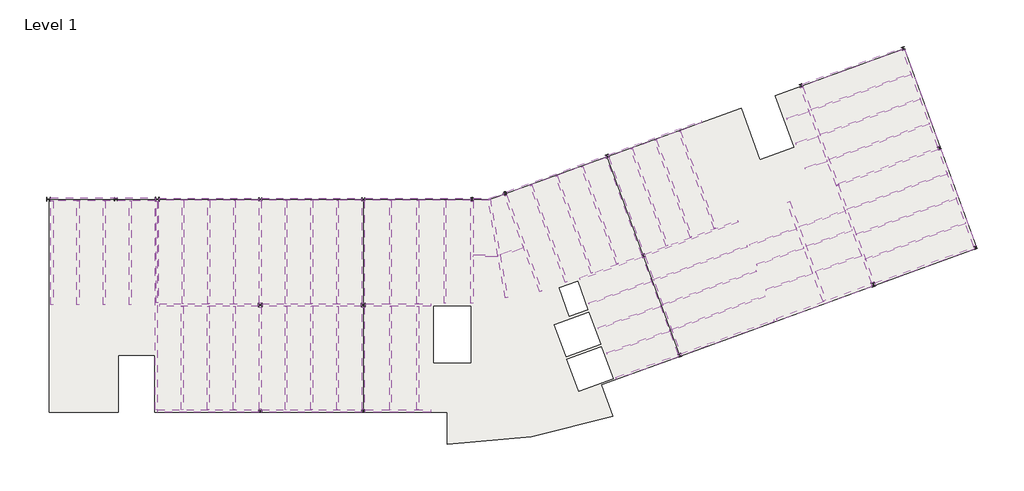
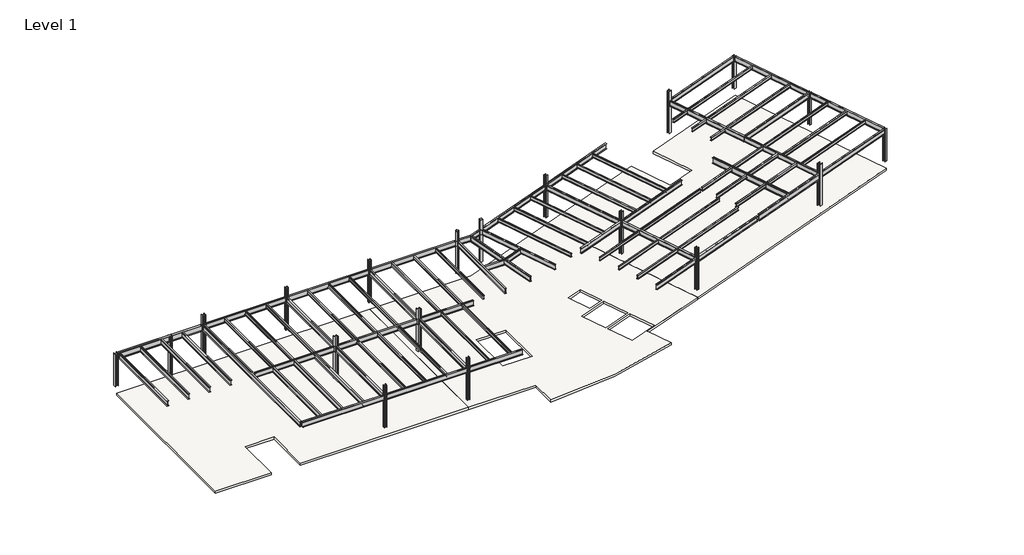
# One storey: 87 beams, 19 columns, 1 slab.
"""IFC4 building model written with IfcOpenShell, lengths in millimetres."""

from ifc_helpers import new_model, si_unit, point, frame, frame_2d, origin, place, context, project, spatial, polyline, circle_curve, trimmed, segment, composite_curve, outline, extrude, transform, mapped, element, save
from components import beam_e63ae445, ub_universal_beams_e915e172, ub_universal_beams_a95554c7, ub_universal_beams_b6dbdd7a, ub_universal_beams_9ada3ad7, ub_universal_beams_885cc86f, ub_universal_beams_c84566a2, ub_universal_beams_4841b023, ub_universal_beams_20791346, ub_universal_beams_18d3feb0, ub_universal_beams_59459dd6, ub_universal_beams_568b5c51, ub_universal_beams_e00400c9, ub_universal_beams_f823aa85, ub_universal_beams_cdbcbb51, ub_universal_beams_2db27d90, ub_universal_beams_feb0265b, ub_universal_beams_78ad538f, ub_universal_beams_801fcbf0, ub_universal_beams_7192e0ee, ub_universal_beams_e0a47d06, ub_universal_beams_f5dc209c, ub_universal_beams_f862a4b8, ub_universal_beams_0fc11a2d, ub_universal_beams_656765b2, ub_universal_beams_21f5ef47, ub_universal_beams_7b4bcd9a, ub_universal_beams_8d1efc97, ub_universal_beams_2b7a043a, ub_universal_beams_8d2b0bf5, ub_universal_beams_37de3949, ub_universal_beams_43212cfb, ub_universal_beams_777f85ab, ub_universal_beams_8ec85ef7, ub_universal_beams_16a75a32, ub_universal_beams_b9a7bbe5, ub_universal_beams_60794b88, ub_universal_beams_0c249d50, ub_universal_beams_892b370d, ub_universal_beams_25e113f4, ub_universal_beams_813faa96, ub_universal_beams_bf94d013, ub_universal_beams_c91190e6, column_fd5da61b, uc_universal_columns_column_9b15f2e4, uc_universal_columns_column_e63b660d, uc_universal_columns_column_cef70da3, uc_universal_columns_column_7956e9f7

model = new_model("IFC4")

# Units and contexts
model_context = context("Model", 3, world=origin())
ifc_project = project(units=[si_unit("LENGTHUNIT", "METRE", prefix="MILLI")], contexts=[model_context])

# Site, building, storey
site = spatial("IfcSite", under=ifc_project)
building = spatial("IfcBuilding", under=site)
storey = spatial("IfcBuildingStorey", under=building, Name="Level 1", Elevation=3695.0)

# Beams
placement = place(None, origin())
beam_shape = beam_e63ae445(model_context)
element("IfcBeam", 1, ObjectType="Cranked Beam B2 : Cranked Beam B1", at=placement, inside=storey, context=model_context, shape_type="MappedRepresentation", body=[
    mapped(beam_shape, transform((0.0, 0.0, 0.0), x_axis=(1.0, 0.0, 0.0), y_axis=(0.0, 1.0, 0.0), z_axis=(0.0, 0.0, 1.0))),
])
ub_universal_beams_shape = ub_universal_beams_e915e172(model_context)
element("IfcBeam", 2, ObjectType="UB-Universal Beams : UB 18\" x 6\" x 2 1/2\"", at=placement, inside=storey, context=model_context, shape_type="MappedRepresentation", body=[
    mapped(ub_universal_beams_shape, transform((11712.2000023, 15363.2000005, 7366.0), x_axis=(1.0, 0.0, 0.0), y_axis=(0.0, 1.0, 0.0), z_axis=(0.0, 0.0, 1.0))),
])
ub_universal_beams_2_shape = ub_universal_beams_a95554c7(model_context)
element("IfcBeam", 3, ObjectType="UB-Universal Beams : UB 18\" x 6\" x 2 1/2\"", at=placement, inside=storey, context=model_context, shape_type="MappedRepresentation", body=[
    mapped(ub_universal_beams_2_shape, transform((19012.2000023, 15363.2000005, 7366.0), x_axis=(1.0, 0.0, 0.0), y_axis=(0.0, 1.0, 0.0), z_axis=(0.0, 0.0, 1.0))),
])
element("IfcBeam", 4, ObjectType="UB-Universal Beams : UB 18\" x 6\" x 2 1/2\"", at=placement, inside=storey, context=model_context, shape_type="MappedRepresentation", body=[
    mapped(ub_universal_beams_2_shape, transform((19012.2000022, 363.2000005, 7366.0), x_axis=(1.0, 0.0, 0.0), y_axis=(0.0, 1.0, 0.0), z_axis=(0.0, 0.0, 1.0))),
])
ub_universal_beams_3_shape = ub_universal_beams_b6dbdd7a(model_context)
element("IfcBeam", 5, ObjectType="UB-Universal Beams : UB 18\" x 6\" x 2 1/2\"", at=placement, inside=storey, context=model_context, shape_type="MappedRepresentation", body=[
    mapped(ub_universal_beams_3_shape, transform((26512.2000022, 15363.2000005, 7366.0), x_axis=(1.0, 0.0, 0.0), y_axis=(0.0, 1.0, 0.0), z_axis=(0.0, 0.0, 1.0))),
])
ub_universal_beams_4_shape = ub_universal_beams_9ada3ad7(model_context)
element("IfcBeam", 6, ObjectType="UB-Universal Beams : UB 18\" x 6\" x 2 1/2\"", at=placement, inside=storey, context=model_context, shape_type="MappedRepresentation", body=[
    mapped(ub_universal_beams_4_shape, transform((11674.7000023, 7863.2000004, 7366.0), x_axis=(-1.0, 0.0, 0.0), y_axis=(0.0, -1.0, 0.0), z_axis=(0.0, 0.0, 1.0))),
])
ub_universal_beams_5_shape = ub_universal_beams_885cc86f(model_context)
element("IfcBeam", 7, ObjectType="UB-Universal Beams : UB 18\" x 6\" x 2 1/2\"", at=placement, inside=storey, context=model_context, shape_type="MappedRepresentation", body=[
    mapped(ub_universal_beams_5_shape, transform((11674.7000023, 363.2000005, 7366.0), x_axis=(-1.0, 0.0, 0.0), y_axis=(0.0, -1.0, 0.0), z_axis=(0.0, 0.0, 1.0))),
])
ub_universal_beams_6_shape = ub_universal_beams_c84566a2(model_context)
element("IfcBeam", 8, ObjectType="UB-Universal Beams : UB 18\" x 6\" x 2 1/2\"", at=placement, inside=storey, context=model_context, shape_type="MappedRepresentation", body=[
    mapped(ub_universal_beams_6_shape, transform((19012.2000023, 7863.2000004, 7366.0), x_axis=(1.0, 0.0, 0.0), y_axis=(0.0, 1.0, 0.0), z_axis=(0.0, 0.0, 1.0))),
])
ub_universal_beams_7_shape = ub_universal_beams_4841b023(model_context)
element("IfcBeam", 9, ObjectType="UB-Universal Beams : UB 18\" x 6\" x 2 1/2\"", at=placement, inside=storey, context=model_context, shape_type="MappedRepresentation", body=[
    mapped(ub_universal_beams_7_shape, transform((25112.2000025, 7863.2000004, 7366.0), x_axis=(1.0, 0.0, 0.0), y_axis=(0.0, 1.0, 0.0), z_axis=(0.0, 0.0, 1.0))),
])
ub_universal_beams_8_shape = ub_universal_beams_20791346(model_context)
element("IfcBeam", 10, ObjectType="UB-Universal Beams : UB 18\" x 6\" x 2 1/2\"", at=placement, inside=storey, context=model_context, shape_type="MappedRepresentation", body=[
    mapped(ub_universal_beams_8_shape, transform((25112.2000025, 363.2000005, 7366.0), x_axis=(1.0, 0.0, 0.0), y_axis=(0.0, 1.0, 0.0), z_axis=(0.0, 0.0, 1.0))),
])
ub_universal_beams_9_shape = ub_universal_beams_18d3feb0(model_context)
element("IfcBeam", 11, ObjectType="UB-Universal Beams : UB 18\" x 6\" x 2 1/2\"", at=placement, inside=storey, context=model_context, shape_type="MappedRepresentation", body=[
    mapped(ub_universal_beams_9_shape, transform((8062.2000022, 11613.2000005, 7366.0), x_axis=(0.0, 1.0, 0.0), y_axis=(-1.0, 0.0, 0.0), z_axis=(0.0, 0.0, 1.0))),
])
ub_universal_beams_10_shape = ub_universal_beams_59459dd6(model_context)
element("IfcBeam", 12, ObjectType="UB-Universal Beams : UB 18\" x 6\" x 2 1/2\"", at=placement, inside=storey, context=model_context, shape_type="MappedRepresentation", body=[
    mapped(ub_universal_beams_10_shape, transform((15362.2000023, 4113.2000005, 7366.0), x_axis=(0.0, 1.0, 0.0), y_axis=(-1.0, 0.0, 0.0), z_axis=(0.0, 0.0, 1.0))),
])
element("IfcBeam", 13, ObjectType="UB-Universal Beams : UB 18\" x 6\" x 2 1/2\"", at=placement, inside=storey, context=model_context, shape_type="MappedRepresentation", body=[
    mapped(ub_universal_beams_10_shape, transform((22662.2000022, 4113.2000005, 7366.0), x_axis=(0.0, 1.0, 0.0), y_axis=(-1.0, 0.0, 0.0), z_axis=(0.0, 0.0, 1.0))),
])
ub_universal_beams_11_shape = ub_universal_beams_568b5c51(model_context)
element("IfcBeam", 14, ObjectType="UB-Universal Beams : UB 18\" x 6\" x 2 1/2\"", at=placement, inside=storey, context=model_context, shape_type="MappedRepresentation", body=[
    mapped(ub_universal_beams_11_shape, transform((15362.2000023, 11613.2000005, 7366.0), x_axis=(0.0, 1.0, 0.0), y_axis=(-1.0, 0.0, 0.0), z_axis=(0.0, 0.0, 1.0))),
])
element("IfcBeam", 15, ObjectType="UB-Universal Beams : UB 18\" x 6\" x 2 1/2\"", at=placement, inside=storey, context=model_context, shape_type="MappedRepresentation", body=[
    mapped(ub_universal_beams_11_shape, transform((22662.2000022, 11613.2000005, 7366.0), x_axis=(0.0, 1.0, 0.0), y_axis=(-1.0, 0.0, 0.0), z_axis=(0.0, 0.0, 1.0))),
])
ub_universal_beams_12_shape = ub_universal_beams_e00400c9(model_context)
element("IfcBeam", 16, ObjectType="UB-Universal Beams : UB 18\" x 6\" x 2 1/2\"", at=placement, inside=storey, context=model_context, shape_type="MappedRepresentation", body=[
    mapped(ub_universal_beams_12_shape, transform((30362.2000022, 11613.2000005, 7366.0), x_axis=(0.0, 1.0, 0.0), y_axis=(-1.0, 0.0, 0.0), z_axis=(0.0, 0.0, 1.0))),
])
ub_universal_beams_13_shape = ub_universal_beams_f823aa85(model_context)
element("IfcBeam", 17, ObjectType="UB-Universal Beams : UB 12\" x 5\" x 1 1/2\"", at=placement, inside=storey, context=model_context, shape_type="MappedRepresentation", body=[
    mapped(ub_universal_beams_13_shape, transform((9887.2000022, 11613.2000005, 7442.8), x_axis=(0.0, 1.0, 0.0), y_axis=(-1.0, 0.0, 0.0), z_axis=(0.0, 0.0, 1.0))),
])
element("IfcBeam", 18, ObjectType="UB-Universal Beams : UB 12\" x 5\" x 1 1/2\"", at=placement, inside=storey, context=model_context, shape_type="MappedRepresentation", body=[
    mapped(ub_universal_beams_13_shape, transform((11712.2000022, 11613.2000005, 7442.8), x_axis=(0.0, 1.0, 0.0), y_axis=(-1.0, 0.0, 0.0), z_axis=(0.0, 0.0, 1.0))),
])
element("IfcBeam", 19, ObjectType="UB-Universal Beams : UB 12\" x 5\" x 1 1/2\"", at=placement, inside=storey, context=model_context, shape_type="MappedRepresentation", body=[
    mapped(ub_universal_beams_13_shape, transform((13537.2000023, 11613.2000005, 7442.8), x_axis=(0.0, 1.0, 0.0), y_axis=(-1.0, 0.0, 0.0), z_axis=(0.0, 0.0, 1.0))),
])
element("IfcBeam", 20, ObjectType="UB-Universal Beams : UB 12\" x 5\" x 1 1/2\"", at=placement, inside=storey, context=model_context, shape_type="MappedRepresentation", body=[
    mapped(ub_universal_beams_13_shape, transform((17187.2000023, 11613.2000005, 7442.8), x_axis=(0.0, 1.0, 0.0), y_axis=(-1.0, 0.0, 0.0), z_axis=(0.0, 0.0, 1.0))),
])
element("IfcBeam", 21, ObjectType="UB-Universal Beams : UB 12\" x 5\" x 1 1/2\"", at=placement, inside=storey, context=model_context, shape_type="MappedRepresentation", body=[
    mapped(ub_universal_beams_13_shape, transform((19012.2000023, 11613.2000005, 7442.8), x_axis=(0.0, 1.0, 0.0), y_axis=(-1.0, 0.0, 0.0), z_axis=(0.0, 0.0, 1.0))),
])
element("IfcBeam", 22, ObjectType="UB-Universal Beams : UB 12\" x 5\" x 1 1/2\"", at=placement, inside=storey, context=model_context, shape_type="MappedRepresentation", body=[
    mapped(ub_universal_beams_13_shape, transform((20837.2000022, 11613.2000005, 7442.8), x_axis=(0.0, 1.0, 0.0), y_axis=(-1.0, 0.0, 0.0), z_axis=(0.0, 0.0, 1.0))),
])
element("IfcBeam", 23, ObjectType="UB-Universal Beams : UB 12\" x 5\" x 1 1/2\"", at=placement, inside=storey, context=model_context, shape_type="MappedRepresentation", body=[
    mapped(ub_universal_beams_13_shape, transform((24587.2000022, 11613.2000005, 7442.8), x_axis=(0.0, 1.0, 0.0), y_axis=(-1.0, 0.0, 0.0), z_axis=(0.0, 0.0, 1.0))),
])
element("IfcBeam", 24, ObjectType="UB-Universal Beams : UB 12\" x 5\" x 1 1/2\"", at=placement, inside=storey, context=model_context, shape_type="MappedRepresentation", body=[
    mapped(ub_universal_beams_13_shape, transform((26512.2000022, 11613.2000005, 7442.8), x_axis=(0.0, 1.0, 0.0), y_axis=(-1.0, 0.0, 0.0), z_axis=(0.0, 0.0, 1.0))),
])
element("IfcBeam", 25, ObjectType="UB-Universal Beams : UB 12\" x 5\" x 1 1/2\"", at=placement, inside=storey, context=model_context, shape_type="MappedRepresentation", body=[
    mapped(ub_universal_beams_13_shape, transform((17187.2000022, 4113.2000005, 7442.8), x_axis=(0.0, 1.0, 0.0), y_axis=(-1.0, 0.0, 0.0), z_axis=(0.0, 0.0, 1.0))),
])
element("IfcBeam", 26, ObjectType="UB-Universal Beams : UB 12\" x 5\" x 1 1/2\"", at=placement, inside=storey, context=model_context, shape_type="MappedRepresentation", body=[
    mapped(ub_universal_beams_13_shape, transform((19012.2000022, 4113.2000005, 7442.8), x_axis=(0.0, 1.0, 0.0), y_axis=(-1.0, 0.0, 0.0), z_axis=(0.0, 0.0, 1.0))),
])
element("IfcBeam", 27, ObjectType="UB-Universal Beams : UB 12\" x 5\" x 1 1/2\"", at=placement, inside=storey, context=model_context, shape_type="MappedRepresentation", body=[
    mapped(ub_universal_beams_13_shape, transform((20837.2000022, 4113.2000005, 7442.8), x_axis=(0.0, 1.0, 0.0), y_axis=(-1.0, 0.0, 0.0), z_axis=(0.0, 0.0, 1.0))),
])
element("IfcBeam", 28, ObjectType="UB-Universal Beams : UB 12\" x 5\" x 1 1/2\"", at=placement, inside=storey, context=model_context, shape_type="MappedRepresentation", body=[
    mapped(ub_universal_beams_13_shape, transform((24587.2000022, 4113.2000004, 7442.8), x_axis=(0.0, 1.0, 0.0), y_axis=(-1.0, 0.0, 0.0), z_axis=(0.0, 0.0, 1.0))),
])
element("IfcBeam", 29, ObjectType="UB-Universal Beams : UB 12\" x 5\" x 1 1/2\"", at=placement, inside=storey, context=model_context, shape_type="MappedRepresentation", body=[
    mapped(ub_universal_beams_13_shape, transform((26512.2000022, 4113.2000004, 7442.8), x_axis=(0.0, 1.0, 0.0), y_axis=(-1.0, 0.0, 0.0), z_axis=(0.0, 0.0, 1.0))),
])
element("IfcBeam", 30, ObjectType="UB-Universal Beams : UB 12\" x 5\" x 1 1/2\"", at=placement, inside=storey, context=model_context, shape_type="MappedRepresentation", body=[
    mapped(ub_universal_beams_13_shape, transform((39409.0148654, 14226.6858637, 7442.8), x_axis=(0.34202014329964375, -0.9396926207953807, 0.0), y_axis=(0.9396926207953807, 0.34202014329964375, 0.0), z_axis=(0.0, 0.0, 1.0))),
])
element("IfcBeam", 31, ObjectType="UB-Universal Beams : UB 12\" x 5\" x 1 1/2\"", at=placement, inside=storey, context=model_context, shape_type="MappedRepresentation", body=[
    mapped(ub_universal_beams_13_shape, transform((37600.1065704, 13568.2970878, 7442.8), x_axis=(0.34202014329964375, -0.9396926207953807, 0.0), y_axis=(0.9396926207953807, 0.34202014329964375, 0.0), z_axis=(0.0, 0.0, 1.0))),
])
element("IfcBeam", 32, ObjectType="UB-Universal Beams : UB 12\" x 5\" x 1 1/2\"", at=placement, inside=storey, context=model_context, shape_type="MappedRepresentation", body=[
    mapped(ub_universal_beams_13_shape, transform((42915.2429568, 15502.8485233, 7442.8), x_axis=(-0.3420201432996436, 0.9396926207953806, 0.0), y_axis=(-0.9396926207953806, -0.3420201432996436, 0.0), z_axis=(0.0, 0.0, 1.0))),
])
element("IfcBeam", 33, ObjectType="UB-Universal Beams : UB 12\" x 5\" x 1 1/2\"", at=placement, inside=storey, context=model_context, shape_type="MappedRepresentation", body=[
    mapped(ub_universal_beams_13_shape, transform((44612.5627531, 16120.6224071, 7442.8), x_axis=(-0.34202014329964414, 0.9396926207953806, 0.0), y_axis=(-0.9396926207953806, -0.34202014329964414, 0.0), z_axis=(0.0, 0.0, 1.0))),
])
element("IfcBeam", 34, ObjectType="UB-Universal Beams : UB 12\" x 5\" x 1 1/2\"", at=placement, inside=storey, context=model_context, shape_type="MappedRepresentation", body=[
    mapped(ub_universal_beams_13_shape, transform((46309.8825494, 16738.396291, 7442.8), x_axis=(-0.34202014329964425, 0.9396926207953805, 0.0), y_axis=(-0.9396926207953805, -0.34202014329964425, 0.0), z_axis=(0.0, 0.0, 1.0))),
])
ub_universal_beams_14_shape = ub_universal_beams_cdbcbb51(model_context)
element("IfcBeam", 35, ObjectType="UB-Universal Beams : UB 12\" x 5\" x 1 1/2\"", at=placement, inside=storey, context=model_context, shape_type="MappedRepresentation", body=[
    mapped(ub_universal_beams_14_shape, transform((28437.2000022, 11613.2000005, 7442.8), x_axis=(0.0, 1.0, 0.0), y_axis=(-1.0, 0.0, 0.0), z_axis=(0.0, 0.0, 1.0))),
])
ub_universal_beams_15_shape = ub_universal_beams_2db27d90(model_context)
element("IfcBeam", 36, ObjectType="UB-Universal Beams : UB 18\" x 6\" x 2 1/2\"", at=placement, inside=storey, context=model_context, shape_type="MappedRepresentation", body=[
    mapped(ub_universal_beams_15_shape, transform((33982.2899804, 12251.5195361, 7366.0), x_axis=(0.3420201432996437, -0.9396926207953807, 0.0), y_axis=(0.9396926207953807, 0.3420201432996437, 0.0), z_axis=(0.0, 0.0, 1.0))),
])
ub_universal_beams_16_shape = ub_universal_beams_feb0265b(model_context)
element("IfcBeam", 37, ObjectType="UB-Universal Beams : UB 18\" x 6\" x 2 1/2\"", at=placement, inside=storey, context=model_context, shape_type="MappedRepresentation", body=[
    mapped(ub_universal_beams_16_shape, transform((32191.7898055, 11821.5156209, 7366.0), x_axis=(0.173648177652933, -0.9848077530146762, 0.0), y_axis=(0.9848077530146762, 0.173648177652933, 0.0), z_axis=(0.0, 0.0, 1.0))),
])
ub_universal_beams_17_shape = ub_universal_beams_78ad538f(model_context)
element("IfcBeam", 38, ObjectType="UB-Universal Beams : UB 18\" x 6\" x 2 1/2\"", at=placement, inside=storey, context=model_context, shape_type="MappedRepresentation", body=[
    mapped(ub_universal_beams_17_shape, transform((31317.5755278, 11361.2273115, 7366.0), x_axis=(1.0, 0.0, 0.0), y_axis=(0.0, 1.0, 0.0), z_axis=(0.0, 0.0, 1.0))),
])
ub_universal_beams_18_shape = ub_universal_beams_801fcbf0(model_context)
element("IfcBeam", 39, ObjectType="UB-Universal Beams : UB 18\" x 6\" x 2 1/2\"", at=placement, inside=storey, context=model_context, shape_type="MappedRepresentation", body=[
    mapped(ub_universal_beams_18_shape, transform((33170.7103845, 11687.9849855, 7366.0), x_axis=(0.9396926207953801, 0.3420201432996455, 0.0), y_axis=(-0.3420201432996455, 0.9396926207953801, 0.0), z_axis=(0.0, 0.0, 1.0))),
])
ub_universal_beams_19_shape = ub_universal_beams_7192e0ee(model_context)
element("IfcBeam", 40, ObjectType="UB-Universal Beams : UB 18\" x 6\" x 2 1/2\"", at=placement, inside=storey, context=model_context, shape_type="MappedRepresentation", body=[
    mapped(ub_universal_beams_19_shape, transform((43329.9872158, 19644.4697351, 7366.0), x_axis=(0.9396926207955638, 0.3420201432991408, 0.0), y_axis=(-0.3420201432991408, 0.9396926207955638, 0.0), z_axis=(0.0, 0.0, 1.0))),
])
element("IfcBeam", 41, ObjectType="UB-Universal Beams : UB 18\" x 6\" x 2 1/2\"", at=placement, inside=storey, context=model_context, shape_type="MappedRepresentation", body=[
    mapped(ub_universal_beams_19_shape, transform((45895.1382905, 12596.7750792, 7366.0), x_axis=(0.9396926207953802, 0.34202014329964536, 0.0), y_axis=(-0.34202014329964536, 0.9396926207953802, 0.0), z_axis=(0.0, 0.0, 1.0))),
])
element("IfcBeam", 42, ObjectType="UB-Universal Beams : UB 18\" x 6\" x 2 1/2\"", at=placement, inside=storey, context=model_context, shape_type="MappedRepresentation", body=[
    mapped(ub_universal_beams_19_shape, transform((48460.2893652, 5549.0804232, 7366.0), x_axis=(0.9396926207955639, 0.3420201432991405, 0.0), y_axis=(-0.3420201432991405, 0.9396926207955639, 0.0), z_axis=(0.0, 0.0, 1.0))),
])
ub_universal_beams_20_shape = ub_universal_beams_e0a47d06(model_context)
element("IfcBeam", 43, ObjectType="UB-Universal Beams : UB 18\" x 6\" x 2 1/2\"", at=placement, inside=storey, context=model_context, shape_type="MappedRepresentation", body=[
    mapped(ub_universal_beams_20_shape, transform((40198.2517768, 10523.2779603, 7366.0), x_axis=(0.9396926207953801, 0.34202014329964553, 0.0), y_axis=(-0.34202014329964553, 0.9396926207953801, 0.0), z_axis=(0.0, 0.0, 1.0))),
])
ub_universal_beams_21_shape = ub_universal_beams_f5dc209c(model_context)
element("IfcBeam", 44, ObjectType="UB-Universal Beams : UB 18\" x 6\" x 2 1/2\"", at=placement, inside=storey, context=model_context, shape_type="MappedRepresentation", body=[
    mapped(ub_universal_beams_21_shape, transform((41217.9231605, 14885.0746394, 7366.0), x_axis=(-0.3420201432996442, 0.9396926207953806, 0.0), y_axis=(-0.9396926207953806, -0.3420201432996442, 0.0), z_axis=(0.0, 0.0, 1.0))),
])
element("IfcBeam", 45, ObjectType="UB-Universal Beams : UB 18\" x 6\" x 2 1/2\"", at=placement, inside=storey, context=model_context, shape_type="MappedRepresentation", body=[
    mapped(ub_universal_beams_21_shape, transform((43783.0742352, 7837.3799835, 7366.0), x_axis=(-0.3420201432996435, 0.939692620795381, 0.0), y_axis=(-0.939692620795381, -0.3420201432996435, 0.0), z_axis=(0.0, 0.0, 1.0))),
])
ub_universal_beams_22_shape = ub_universal_beams_f862a4b8(model_context)
element("IfcBeam", 46, ObjectType="UB-Universal Beams : UB 18\" x 6\" x 2 1/2\"", at=placement, inside=storey, context=model_context, shape_type="MappedRepresentation", body=[
    mapped(ub_universal_beams_22_shape, transform((42763.4028515, 3475.5833044, 7366.0), x_axis=(-0.9396926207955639, -0.34202014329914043, 0.0), y_axis=(0.34202014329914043, -0.9396926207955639, 0.0), z_axis=(0.0, 0.0, 1.0))),
])
ub_universal_beams_23_shape = ub_universal_beams_0fc11a2d(model_context)
element("IfcBeam", 47, ObjectType="UB-Universal Beams : UB 20 1/2\" x 8 1/2\" x 3 1/2\"", at=placement, inside=storey, context=model_context, shape_type="MappedRepresentation", body=[
    mapped(ub_universal_beams_23_shape, transform((55320.045497, 8045.8274693, 7330.85), x_axis=(0.9396926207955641, 0.3420201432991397, 0.0), y_axis=(-0.3420201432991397, 0.9396926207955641, 0.0), z_axis=(0.0, 0.0, 1.0))),
])
ub_universal_beams_24_shape = ub_universal_beams_656765b2(model_context)
element("IfcBeam", 48, ObjectType="UB-Universal Beams : UB 18\" x 6\" x 2 1/2\"", at=placement, inside=storey, context=model_context, shape_type="MappedRepresentation", body=[
    mapped(ub_universal_beams_24_shape, transform((62402.9786263, 10623.8042994, 7366.0), x_axis=(0.9396926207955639, 0.34202014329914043, 0.0), y_axis=(-0.34202014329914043, 0.9396926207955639, 0.0), z_axis=(0.0, 0.0, 1.0))),
])
element("IfcBeam", 49, ObjectType="UB-Universal Beams : UB 18\" x 6\" x 2 1/2\"", at=placement, inside=storey, context=model_context, shape_type="MappedRepresentation", body=[
    mapped(ub_universal_beams_21_shape, transform((64738.219679, 15464.4291791, 7366.0), x_axis=(-0.34202014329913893, 0.9396926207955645, 0.0), y_axis=(-0.9396926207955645, -0.34202014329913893, 0.0), z_axis=(0.0, 0.0, 1.0))),
])
element("IfcBeam", 50, ObjectType="UB-Universal Beams : UB 18\" x 6\" x 2 1/2\"", at=placement, inside=storey, context=model_context, shape_type="MappedRepresentation", body=[
    mapped(ub_universal_beams_21_shape, transform((62173.0686043, 22512.123835, 7366.0), x_axis=(-0.3420201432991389, 0.9396926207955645, 0.0), y_axis=(-0.9396926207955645, -0.3420201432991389, 0.0), z_axis=(0.0, 0.0, 1.0))),
])
ub_universal_beams_25_shape = ub_universal_beams_21f5ef47(model_context)
element("IfcBeam", 51, ObjectType="UB-Universal Beams : UB 18\" x 6\" x 2 1/2\"", at=placement, inside=storey, context=model_context, shape_type="MappedRepresentation", body=[
    mapped(ub_universal_beams_25_shape, transform((57272.6764768, 24719.1936113, 7366.0), x_axis=(-0.9396926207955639, -0.3420201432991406, 0.0), y_axis=(0.3420201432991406, -0.9396926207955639, 0.0), z_axis=(0.0, 0.0, 1.0))),
])
ub_universal_beams_26_shape = ub_universal_beams_7b4bcd9a(model_context)
element("IfcBeam", 52, ObjectType="UB-Universal Beams : UB 18\" x 6\" x 2 1/2\"", at=placement, inside=storey, context=model_context, shape_type="MappedRepresentation", body=[
    mapped(ub_universal_beams_26_shape, transform((54937.4354241, 19878.5687316, 7366.0), x_axis=(-0.3420201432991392, 0.9396926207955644, 0.0), y_axis=(-0.9396926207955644, -0.3420201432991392, 0.0), z_axis=(0.0, 0.0, 1.0))),
])
ub_universal_beams_27_shape = ub_universal_beams_8d1efc97(model_context)
element("IfcBeam", 53, ObjectType="UB-Universal Beams : UB 12\" x 5\" x 1 1/2\"", at=placement, inside=storey, context=model_context, shape_type="MappedRepresentation", body=[
    mapped(ub_universal_beams_27_shape, transform((35791.1982754, 12909.908312, 7442.8), x_axis=(0.3420201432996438, -0.9396926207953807, 0.0), y_axis=(0.9396926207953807, 0.3420201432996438, 0.0), z_axis=(0.0, 0.0, 1.0))),
])
ub_universal_beams_28_shape = ub_universal_beams_2b7a043a(model_context)
element("IfcBeam", 54, ObjectType="UB-Universal Beams : UB 12\" x 5\" x 1 1/2\"", at=placement, inside=storey, context=model_context, shape_type="MappedRepresentation", body=[
    mapped(ub_universal_beams_28_shape, transform((42122.1150828, 5237.5069684, 7442.8), x_axis=(-0.939692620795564, -0.3420201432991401, 0.0), y_axis=(0.3420201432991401, -0.939692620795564, 0.0), z_axis=(0.0, 0.0, 1.0))),
])
element("IfcBeam", 55, ObjectType="UB-Universal Beams : UB 12\" x 5\" x 1 1/2\"", at=placement, inside=storey, context=model_context, shape_type="MappedRepresentation", body=[
    mapped(ub_universal_beams_28_shape, transform((41480.8273141, 6999.4306323, 7442.8), x_axis=(-0.9396926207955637, -0.3420201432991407, 0.0), y_axis=(0.3420201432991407, -0.9396926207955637, 0.0), z_axis=(0.0, 0.0, 1.0))),
])
element("IfcBeam", 56, ObjectType="UB-Universal Beams : UB 12\" x 5\" x 1 1/2\"", at=placement, inside=storey, context=model_context, shape_type="MappedRepresentation", body=[
    mapped(ub_universal_beams_28_shape, transform((40839.5395455, 8761.3542963, 7442.8), x_axis=(-0.939692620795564, -0.3420201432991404, 0.0), y_axis=(0.3420201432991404, -0.939692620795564, 0.0), z_axis=(0.0, 0.0, 1.0))),
])
ub_universal_beams_29_shape = ub_universal_beams_8d2b0bf5(model_context)
element("IfcBeam", 57, ObjectType="UB-Universal Beams : UB 12\" x 5\" x 1 1/2\"", at=placement, inside=storey, context=model_context, shape_type="MappedRepresentation", body=[
    mapped(ub_universal_beams_29_shape, transform((46536.4260592, 10834.8514152, 7442.8), x_axis=(0.9396926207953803, 0.342020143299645, 0.0), y_axis=(-0.342020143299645, 0.9396926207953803, 0.0), z_axis=(0.0, 0.0, 1.0))),
])
element("IfcBeam", 58, ObjectType="UB-Universal Beams : UB 12\" x 5\" x 1 1/2\"", at=placement, inside=storey, context=model_context, shape_type="MappedRepresentation", body=[
    mapped(ub_universal_beams_29_shape, transform((47177.7138279, 9072.9277512, 7442.8), x_axis=(0.9396926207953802, 0.34202014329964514, 0.0), y_axis=(-0.34202014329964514, 0.9396926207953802, 0.0), z_axis=(0.0, 0.0, 1.0))),
])
element("IfcBeam", 59, ObjectType="UB-Universal Beams : UB 12\" x 5\" x 1 1/2\"", at=placement, inside=storey, context=model_context, shape_type="MappedRepresentation", body=[
    mapped(ub_universal_beams_29_shape, transform((47819.0015966, 7311.0040872, 7442.8), x_axis=(0.9396926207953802, 0.3420201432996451, 0.0), y_axis=(-0.3420201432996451, 0.9396926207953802, 0.0), z_axis=(0.0, 0.0, 1.0))),
])
ub_universal_beams_30_shape = ub_universal_beams_37de3949(model_context)
element("IfcBeam", 60, ObjectType="UB-Universal Beams : UB 18\" x 6\" x 2 1/2\"", at=placement, inside=storey, context=model_context, shape_type="MappedRepresentation", body=[
    mapped(ub_universal_beams_30_shape, transform((59849.5737093, 17675.7742072, 7366.0), x_axis=(0.9396926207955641, 0.3420201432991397, 0.0), y_axis=(-0.3420201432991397, 0.9396926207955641, 0.0), z_axis=(0.0, 0.0, 1.0))),
])
ub_universal_beams_31_shape = ub_universal_beams_43212cfb(model_context)
element("IfcBeam", 61, ObjectType="UB-Universal Beams : UB 18\" x 6\" x 2 1/2\"", at=placement, inside=storey, context=model_context, shape_type="MappedRepresentation", body=[
    mapped(ub_universal_beams_31_shape, transform((57502.5864988, 12830.8740757, 7366.0), x_axis=(0.3420201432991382, -0.9396926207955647, 0.0), y_axis=(0.9396926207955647, 0.3420201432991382, 0.0), z_axis=(0.0, 0.0, 1.0))),
])
ub_universal_beams_32_shape = ub_universal_beams_777f85ab(model_context)
element("IfcBeam", 62, ObjectType="UB-Universal Beams : UB 12\" x 5\" x 1 1/2\"", at=placement, inside=storey, context=model_context, shape_type="MappedRepresentation", body=[
    mapped(ub_universal_beams_32_shape, transform((60479.1153202, 15909.5752914, 7442.8), x_axis=(0.9396926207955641, 0.34202014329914, 0.0), y_axis=(-0.34202014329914, 0.9396926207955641, 0.0), z_axis=(0.0, 0.0, 1.0))),
])
element("IfcBeam", 63, ObjectType="UB-Universal Beams : UB 12\" x 5\" x 1 1/2\"", at=placement, inside=storey, context=model_context, shape_type="MappedRepresentation", body=[
    mapped(ub_universal_beams_32_shape, transform((61120.4030889, 14147.6516274, 7442.8), x_axis=(0.9396926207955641, 0.34202014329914, 0.0), y_axis=(-0.34202014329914, 0.9396926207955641, 0.0), z_axis=(0.0, 0.0, 1.0))),
])
element("IfcBeam", 64, ObjectType="UB-Universal Beams : UB 12\" x 5\" x 1 1/2\"", at=placement, inside=storey, context=model_context, shape_type="MappedRepresentation", body=[
    mapped(ub_universal_beams_32_shape, transform((61761.6908576, 12385.7279634, 7442.8), x_axis=(0.9396926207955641, 0.3420201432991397, 0.0), y_axis=(-0.3420201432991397, 0.9396926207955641, 0.0), z_axis=(0.0, 0.0, 1.0))),
])
element("IfcBeam", 65, ObjectType="UB-Universal Beams : UB 12\" x 5\" x 1 1/2\"", at=placement, inside=storey, context=model_context, shape_type="MappedRepresentation", body=[
    mapped(ub_universal_beams_32_shape, transform((57913.9642455, 22957.2699473, 7442.8), x_axis=(0.9396926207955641, 0.3420201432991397, 0.0), y_axis=(-0.3420201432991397, 0.9396926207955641, 0.0), z_axis=(0.0, 0.0, 1.0))),
])
element("IfcBeam", 66, ObjectType="UB-Universal Beams : UB 12\" x 5\" x 1 1/2\"", at=placement, inside=storey, context=model_context, shape_type="MappedRepresentation", body=[
    mapped(ub_universal_beams_32_shape, transform((58555.2520142, 21195.3462833, 7442.8), x_axis=(0.9396926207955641, 0.3420201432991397, 0.0), y_axis=(-0.3420201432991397, 0.9396926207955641, 0.0), z_axis=(0.0, 0.0, 1.0))),
])
element("IfcBeam", 67, ObjectType="UB-Universal Beams : UB 12\" x 5\" x 1 1/2\"", at=placement, inside=storey, context=model_context, shape_type="MappedRepresentation", body=[
    mapped(ub_universal_beams_32_shape, transform((59196.5397829, 19433.4226193, 7442.8), x_axis=(0.9396926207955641, 0.3420201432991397, 0.0), y_axis=(-0.3420201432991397, 0.9396926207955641, 0.0), z_axis=(0.0, 0.0, 1.0))),
])
ub_universal_beams_33_shape = ub_universal_beams_8ec85ef7(model_context)
element("IfcBeam", 68, ObjectType="UB-Universal Beams : UB 20 1/2\" x 8 1/2\" x 3 1/2\"", at=placement, inside=storey, context=model_context, shape_type="MappedRepresentation", body=[
    mapped(ub_universal_beams_33_shape, transform((54042.3541451, 11665.8982726, 7330.85), x_axis=(-0.34202014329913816, 0.9396926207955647, 0.0), y_axis=(-0.9396926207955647, -0.34202014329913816, 0.0), z_axis=(0.0, 0.0, 1.0))),
])
ub_universal_beams_34_shape = ub_universal_beams_16a75a32(model_context)
element("IfcBeam", 69, ObjectType="UB-Universal Beams : UB 12\" x 5\" x 1 1/2\"", at=placement, inside=storey, context=model_context, shape_type="MappedRepresentation", body=[
    mapped(ub_universal_beams_34_shape, transform((52185.7228693, 11321.365084, 7442.8), x_axis=(0.9396926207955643, 0.3420201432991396, 0.0), y_axis=(-0.3420201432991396, 0.9396926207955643, 0.0), z_axis=(0.0, 0.0, 1.0))),
])
element("IfcBeam", 70, ObjectType="UB-Universal Beams : UB 12\" x 5\" x 1 1/2\"", at=placement, inside=storey, context=model_context, shape_type="MappedRepresentation", body=[
    mapped(ub_universal_beams_34_shape, transform((51681.2431579, 12707.4116997, 7442.8), x_axis=(0.9396926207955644, 0.34202014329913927, 0.0), y_axis=(-0.34202014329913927, 0.9396926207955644, 0.0), z_axis=(0.0, 0.0, 1.0))),
])
ub_universal_beams_35_shape = ub_universal_beams_b9a7bbe5(model_context)
element("IfcBeam", 71, ObjectType="UB-Universal Beams : UB 12\" x 5\" x 1 1/2\"", at=placement, inside=storey, context=model_context, shape_type="MappedRepresentation", body=[
    mapped(ub_universal_beams_35_shape, transform((55650.8394085, 12582.5643624, 7442.8), x_axis=(0.939692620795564, 0.34202014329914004, 0.0), y_axis=(-0.34202014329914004, 0.939692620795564, 0.0), z_axis=(0.0, 0.0, 1.0))),
])
element("IfcBeam", 72, ObjectType="UB-Universal Beams : UB 12\" x 5\" x 1 1/2\"", at=placement, inside=storey, context=model_context, shape_type="MappedRepresentation", body=[
    mapped(ub_universal_beams_35_shape, transform((56300.6776807, 10797.1483829, 7442.8), x_axis=(0.9396926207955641, 0.3420201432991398, 0.0), y_axis=(-0.3420201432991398, 0.9396926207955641, 0.0), z_axis=(0.0, 0.0, 1.0))),
])
element("IfcBeam", 73, ObjectType="UB-Universal Beams : UB 12\" x 5\" x 1 1/2\"", at=placement, inside=storey, context=model_context, shape_type="MappedRepresentation", body=[
    mapped(ub_universal_beams_35_shape, transform((55146.3596971, 13968.6109781, 7442.8), x_axis=(0.9396926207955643, 0.34202014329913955, 0.0), y_axis=(-0.34202014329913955, 0.9396926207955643, 0.0), z_axis=(0.0, 0.0, 1.0))),
])
ub_universal_beams_36_shape = ub_universal_beams_60794b88(model_context)
element("IfcBeam", 74, ObjectType="UB-Universal Beams : UB 12\" x 5\" x 1 1/2\"", at=placement, inside=storey, context=model_context, shape_type="MappedRepresentation", body=[
    mapped(ub_universal_beams_36_shape, transform((53431.3248942, 21325.7226526, 7442.8), x_axis=(-0.939692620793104, -0.34202014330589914, 0.0), y_axis=(0.34202014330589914, -0.939692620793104, 0.0), z_axis=(0.0, 0.0, 1.0))),
])
element("IfcBeam", 75, ObjectType="UB-Universal Beams : UB 12\" x 5\" x 1 1/2\"", at=placement, inside=storey, context=model_context, shape_type="MappedRepresentation", body=[
    mapped(ub_universal_beams_36_shape, transform((54072.6126629, 19563.7989886, 7442.8), x_axis=(-0.939692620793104, -0.3420201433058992, 0.0), y_axis=(0.3420201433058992, -0.939692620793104, 0.0), z_axis=(0.0, 0.0, 1.0))),
])
element("IfcBeam", 76, ObjectType="UB-Universal Beams : UB 12\" x 5\" x 1 1/2\"", at=placement, inside=storey, context=model_context, shape_type="MappedRepresentation", body=[
    mapped(ub_universal_beams_36_shape, transform((54713.9004316, 17801.8753247, 7442.8), x_axis=(-0.939692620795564, -0.34202014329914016, 0.0), y_axis=(0.34202014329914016, -0.939692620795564, 0.0), z_axis=(0.0, 0.0, 1.0))),
])
ub_universal_beams_37_shape = ub_universal_beams_0c249d50(model_context)
element("IfcBeam", 77, ObjectType="UB-Universal Beams : UB 12\" x 5\" x 1 1/2\"", at=placement, inside=storey, context=model_context, shape_type="MappedRepresentation", body=[
    mapped(ub_universal_beams_37_shape, transform((52835.5611416, 9535.9491045, 7442.8), x_axis=(-0.9396926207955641, -0.34202014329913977, 0.0), y_axis=(0.34202014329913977, -0.9396926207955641, 0.0), z_axis=(0.0, 0.0, 1.0))),
])
ub_universal_beams_38_shape = ub_universal_beams_892b370d(model_context)
element("IfcBeam", 78, ObjectType="UB-Universal Beams : UB 20 1/2\" x 8 1/2\" x 3 1/2\"", at=placement, inside=storey, context=model_context, shape_type="MappedRepresentation", body=[
    mapped(ub_universal_beams_38_shape, transform((4212.2000022, 15363.2000005, 7330.85), x_axis=(1.0, 0.0, 0.0), y_axis=(0.0, 1.0, 0.0), z_axis=(0.0, 0.0, 1.0))),
])
ub_universal_beams_39_shape = ub_universal_beams_25e113f4(model_context)
element("IfcBeam", 79, ObjectType="UB-Universal Beams : UB 18\" x 6\" x 2 1/2\"", at=placement, inside=storey, context=model_context, shape_type="MappedRepresentation", body=[
    mapped(ub_universal_beams_39_shape, transform((614.1000027, 11575.7000004, 7366.0), x_axis=(0.0, 1.0, 0.0), y_axis=(-1.0, 0.0, 0.0), z_axis=(0.0, 0.0, 1.0))),
])
element("IfcBeam", 80, ObjectType="UB-Universal Beams : UB 18\" x 6\" x 2 1/2\"", at=placement, inside=storey, context=model_context, shape_type="MappedRepresentation", body=[
    mapped(ub_universal_beams_39_shape, transform((2457.6125027, 11575.7000004, 7366.0), x_axis=(0.0, 1.0, 0.0), y_axis=(-1.0, 0.0, 0.0), z_axis=(0.0, 0.0, 1.0))),
])
element("IfcBeam", 81, ObjectType="UB-Universal Beams : UB 18\" x 6\" x 2 1/2\"", at=placement, inside=storey, context=model_context, shape_type="MappedRepresentation", body=[
    mapped(ub_universal_beams_39_shape, transform((4301.1250026, 11575.7000004, 7366.0), x_axis=(0.0, 1.0, 0.0), y_axis=(-1.0, 0.0, 0.0), z_axis=(0.0, 0.0, 1.0))),
])
element("IfcBeam", 82, ObjectType="UB-Universal Beams : UB 18\" x 6\" x 2 1/2\"", at=placement, inside=storey, context=model_context, shape_type="MappedRepresentation", body=[
    mapped(ub_universal_beams_39_shape, transform((6144.6375025, 11575.7000005, 7366.0), x_axis=(0.0, 1.0, 0.0), y_axis=(-1.0, 0.0, 0.0), z_axis=(0.0, 0.0, 1.0))),
])
ub_universal_beams_40_shape = ub_universal_beams_813faa96(model_context)
element("IfcBeam", 83, ObjectType="UB-Universal Beams : UB 18\" x 6\" x 2 1/2\"", at=placement, inside=storey, context=model_context, shape_type="MappedRepresentation", body=[
    mapped(ub_universal_beams_40_shape, transform((7988.1500025, 7863.2000005, 7366.0), x_axis=(0.0, 1.0, 0.0), y_axis=(-1.0, 0.0, 0.0), z_axis=(0.0, 0.0, 1.0))),
])
ub_universal_beams_41_shape = ub_universal_beams_bf94d013(model_context)
element("IfcBeam", 84, ObjectType="UB-Universal Beams : UB 18\" x 6\" x 2 1/2\"", at=placement, inside=storey, context=model_context, shape_type="MappedRepresentation", body=[
    mapped(ub_universal_beams_41_shape, transform((9831.6625024, 4113.2000005, 7366.0), x_axis=(0.0, 1.0, 0.0), y_axis=(-1.0, 0.0, 0.0), z_axis=(0.0, 0.0, 1.0))),
])
element("IfcBeam", 85, ObjectType="UB-Universal Beams : UB 18\" x 6\" x 2 1/2\"", at=placement, inside=storey, context=model_context, shape_type="MappedRepresentation", body=[
    mapped(ub_universal_beams_41_shape, transform((11675.1750024, 4113.2000005, 7366.0), x_axis=(0.0, 1.0, 0.0), y_axis=(-1.0, 0.0, 0.0), z_axis=(0.0, 0.0, 1.0))),
])
element("IfcBeam", 86, ObjectType="UB-Universal Beams : UB 18\" x 6\" x 2 1/2\"", at=placement, inside=storey, context=model_context, shape_type="MappedRepresentation", body=[
    mapped(ub_universal_beams_41_shape, transform((13518.6875023, 4113.2000005, 7366.0), x_axis=(0.0, 1.0, 0.0), y_axis=(-1.0, 0.0, 0.0), z_axis=(0.0, 0.0, 1.0))),
])
ub_universal_beams_42_shape = ub_universal_beams_c91190e6(model_context)
element("IfcBeam", 87, ObjectType="UB-Universal Beams : UB 18\" x 6\" x 2 1/2\"", at=placement, inside=storey, context=model_context, shape_type="MappedRepresentation", body=[
    mapped(ub_universal_beams_42_shape, transform((36317.5310328, 17092.1444158, 7366.0), x_axis=(0.9396926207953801, 0.3420201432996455, 0.0), y_axis=(-0.3420201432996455, 0.9396926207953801, 0.0), z_axis=(0.0, 0.0, 1.0))),
])

# Columns
column_shape = column_fd5da61b(model_context)
element("IfcColumn", 88, ObjectType="Circular Hollow Sections-Column : CHS 9 1/2\" x 1/4\"", at=placement, inside=storey, context=model_context, shape_type="MappedRepresentation", body=[
    mapped(column_shape, transform((30362.2000022, 15363.2000005, 0.0), x_axis=(0.0, 1.0, 0.0), y_axis=(-1.0, 0.0, 0.0), z_axis=(0.0, 0.0, 1.0))),
])
element("IfcColumn", 89, ObjectType="Circular Hollow Sections-Column : CHS 9 1/2\" x 1/4\"", at=placement, inside=storey, context=model_context, shape_type="MappedRepresentation", body=[
    mapped(column_shape, transform((32699.714443, 15775.3668642, 0.0), x_axis=(1.0, 0.0, 0.0), y_axis=(0.0, 1.0, 0.0), z_axis=(0.0, 0.0, 1.0))),
])
element("IfcColumn", 90, ObjectType="UC-Universal Columns-Column : UC 8\" x 8\" x 3\"", at=placement, inside=storey, context=model_context, shape_type="SweptSolid", body=[
    extrude(outline(composite_curve([segment(polyline([(5023.9666692, 15466.4000005), (5041.2666692, 15466.4000005), (5041.2666692, 15378.4000005)]), True, "CONTINUOUS"), segment(trimmed(circle_curve(frame_2d((5051.4666692, 15378.4000005)), 10.2), [point((5041.2666692, 15378.4000005))], [point((5051.4666692, 15368.2000005))], True, "CARTESIAN"), True, "CONTINUOUS"), segment(polyline([(5051.4666692, 15368.2000005), (5212.2666692, 15368.2000005)]), True, "CONTINUOUS"), segment(trimmed(circle_curve(frame_2d((5212.2666692, 15378.4000005)), 10.2), [point((5212.2666692, 15368.2000005))], [point((5222.4666692, 15378.4000005))], True, "CARTESIAN"), True, "CONTINUOUS"), segment(polyline([(5222.4666692, 15378.4000005), (5222.4666692, 15466.4000005), (5239.7666692, 15466.4000005), (5239.7666692, 15260.0000005), (5222.4666692, 15260.0000005), (5222.4666692, 15348.0000005)]), True, "CONTINUOUS"), segment(trimmed(circle_curve(frame_2d((5212.2666692, 15348.0000005)), 10.2), [point((5222.4666692, 15348.0000005))], [point((5212.2666692, 15358.2000005))], True, "CARTESIAN"), True, "CONTINUOUS"), segment(polyline([(5212.2666692, 15358.2000005), (5051.4666692, 15358.2000005)]), True, "CONTINUOUS"), segment(trimmed(circle_curve(frame_2d((5051.4666692, 15348.0000005)), 10.2), [point((5051.4666692, 15358.2000005))], [point((5041.2666692, 15348.0000005))], True, "CARTESIAN"), True, "CONTINUOUS"), segment(polyline([(5041.2666692, 15348.0000005), (5041.2666692, 15260.0000005), (5023.9666692, 15260.0000005), (5023.9666692, 15466.4000005)]), True, "CONTINUOUS")], self_intersect=False)), frame((0.0, 0.0, 3695.0), z_axis=(0.0, 0.0, 1.0), x_axis=(1.0, 0.0, 0.0)), (0.0, 0.0, 1.0), 3900.0),
])
uc_universal_columns_column_shape = uc_universal_columns_column_9b15f2e4(model_context)
element("IfcColumn", 91, ObjectType="UC-Universal Columns-Column : UC 10\" x 10\" x 5 1/2\"", at=placement, inside=storey, context=model_context, shape_type="MappedRepresentation", body=[
    mapped(uc_universal_columns_column_shape, transform((362.2000023, 15363.2000005, 0.0), x_axis=(0.0, 1.0, 0.0), y_axis=(-1.0, 0.0, 0.0), z_axis=(0.0, 0.0, 1.0))),
])
uc_universal_columns_column_2_shape = uc_universal_columns_column_e63b660d(model_context)
element("IfcColumn", 92, ObjectType="UC-Universal Columns-Column : UC 10\" x 10\" x 5 1/2\"", at=placement, inside=storey, context=model_context, shape_type="MappedRepresentation", body=[
    mapped(uc_universal_columns_column_2_shape, transform((15362.2000023, 7863.2000004, 0.0), x_axis=(0.0, 1.0, 0.0), y_axis=(-1.0, 0.0, 0.0), z_axis=(0.0, 0.0, 1.0))),
])
element("IfcColumn", 93, ObjectType="UC-Universal Columns-Column : UC 10\" x 10\" x 5 1/2\"", at=placement, inside=storey, context=model_context, shape_type="MappedRepresentation", body=[
    mapped(uc_universal_columns_column_2_shape, transform((22662.2000022, 7863.2000004, 0.0), x_axis=(0.0, 1.0, 0.0), y_axis=(-1.0, 0.0, 0.0), z_axis=(0.0, 0.0, 1.0))),
])
element("IfcColumn", 94, ObjectType="UC-Universal Columns-Column : UC 10\" x 10\" x 5 1/2\"", at=placement, inside=storey, context=model_context, shape_type="MappedRepresentation", body=[
    mapped(uc_universal_columns_column_2_shape, transform((8062.2000022, 15363.2000005, 0.0), x_axis=(0.0, 1.0, 0.0), y_axis=(-1.0, 0.0, 0.0), z_axis=(0.0, 0.0, 1.0))),
])
element("IfcColumn", 95, ObjectType="UC-Universal Columns-Column : UC 10\" x 10\" x 5 1/2\"", at=placement, inside=storey, context=model_context, shape_type="MappedRepresentation", body=[
    mapped(uc_universal_columns_column_2_shape, transform((58785.1620362, 9307.0267477, 0.0), x_axis=(0.9396926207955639, 0.3420201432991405, 0.0), y_axis=(-0.3420201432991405, 0.9396926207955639, 0.0), z_axis=(0.0, 0.0, 1.0))),
])
uc_universal_columns_column_3_shape = uc_universal_columns_column_cef70da3(model_context)
element("IfcColumn", 96, ObjectType="UC-Universal Columns-Column : UC 8\" x 8\" x 3\"", at=placement, inside=storey, context=model_context, shape_type="MappedRepresentation", body=[
    mapped(uc_universal_columns_column_3_shape, transform((22662.2000023, 15363.2000005, 0.0), x_axis=(0.0, 1.0, 0.0), y_axis=(-1.0, 0.0, 0.0), z_axis=(0.0, 0.0, 1.0))),
])
element("IfcColumn", 97, ObjectType="UC-Universal Columns-Column : UC 8\" x 8\" x 3\"", at=placement, inside=storey, context=model_context, shape_type="MappedRepresentation", body=[
    mapped(uc_universal_columns_column_3_shape, transform((15362.2000023, 15363.2000005, 0.0), x_axis=(0.0, 1.0, 0.0), y_axis=(-1.0, 0.0, 0.0), z_axis=(0.0, 0.0, 1.0))),
])
element("IfcColumn", 98, ObjectType="UC-Universal Columns-Column : UC 8\" x 8\" x 3\"", at=placement, inside=storey, context=model_context, shape_type="MappedRepresentation", body=[
    mapped(uc_universal_columns_column_3_shape, transform((15362.2000023, 363.2000005, 0.0), x_axis=(0.0, 1.0, 0.0), y_axis=(-1.0, 0.0, 0.0), z_axis=(0.0, 0.0, 1.0))),
])
element("IfcColumn", 99, ObjectType="UC-Universal Columns-Column : UC 8\" x 8\" x 3\"", at=placement, inside=storey, context=model_context, shape_type="MappedRepresentation", body=[
    mapped(uc_universal_columns_column_3_shape, transform((22662.2000022, 363.2000005, 0.0), x_axis=(0.0, 1.0, 0.0), y_axis=(-1.0, 0.0, 0.0), z_axis=(0.0, 0.0, 1.0))),
])
element("IfcColumn", 100, ObjectType="UC-Universal Columns-Column : UC 8\" x 8\" x 3\"", at=placement, inside=storey, context=model_context, shape_type="MappedRepresentation", body=[
    mapped(uc_universal_columns_column_3_shape, transform((42500.4986978, 11361.2273115, 0.0), x_axis=(0.9396926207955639, 0.3420201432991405, 0.0), y_axis=(-0.3420201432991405, 0.9396926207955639, 0.0), z_axis=(0.0, 0.0, 1.0))),
])
element("IfcColumn", 101, ObjectType="UC-Universal Columns-Column : UC 8\" x 8\" x 3\"", at=placement, inside=storey, context=model_context, shape_type="MappedRepresentation", body=[
    mapped(uc_universal_columns_column_3_shape, transform((39935.3476231, 18408.9219674, 0.0), x_axis=(0.9396926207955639, 0.3420201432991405, 0.0), y_axis=(-0.3420201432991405, 0.9396926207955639, 0.0), z_axis=(0.0, 0.0, 1.0))),
])
element("IfcColumn", 102, ObjectType="UC-Universal Columns-Column : UC 8\" x 8\" x 3\"", at=placement, inside=storey, context=model_context, shape_type="MappedRepresentation", body=[
    mapped(uc_universal_columns_column_3_shape, transform((53654.8598867, 23402.4160596, 0.0), x_axis=(0.9396926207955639, 0.3420201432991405, 0.0), y_axis=(-0.3420201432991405, 0.9396926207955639, 0.0), z_axis=(0.0, 0.0, 1.0))),
])
element("IfcColumn", 103, ObjectType="UC-Universal Columns-Column : UC 8\" x 8\" x 3\"", at=placement, inside=storey, context=model_context, shape_type="MappedRepresentation", body=[
    mapped(uc_universal_columns_column_3_shape, transform((45065.6497726, 4313.5326555, 0.0), x_axis=(0.939692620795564, 0.3420201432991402, 0.0), y_axis=(-0.3420201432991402, 0.939692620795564, 0.0), z_axis=(0.0, 0.0, 1.0))),
])
uc_universal_columns_column_4_shape = uc_universal_columns_column_7956e9f7(model_context)
element("IfcColumn", 104, ObjectType="UC-Universal Columns-Column : UC 8\" x 8\" x 3\"", at=placement, inside=storey, context=model_context, shape_type="MappedRepresentation", body=[
    mapped(uc_universal_columns_column_4_shape, transform((60890.4930669, 26035.971163, 0.0), x_axis=(0.9396926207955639, 0.3420201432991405, 0.0), y_axis=(-0.3420201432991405, 0.9396926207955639, 0.0), z_axis=(0.0, 0.0, 1.0))),
])
element("IfcColumn", 105, ObjectType="UC-Universal Columns-Column : UC 8\" x 8\" x 3\"", at=placement, inside=storey, context=model_context, shape_type="MappedRepresentation", body=[
    mapped(uc_universal_columns_column_4_shape, transform((63455.6441416, 18988.2765071, 0.0), x_axis=(0.9396926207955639, 0.3420201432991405, 0.0), y_axis=(-0.3420201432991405, 0.9396926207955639, 0.0), z_axis=(0.0, 0.0, 1.0))),
])
element("IfcColumn", 106, ObjectType="UC-Universal Columns-Column : UC 8\" x 8\" x 3\"", at=placement, inside=storey, context=model_context, shape_type="MappedRepresentation", body=[
    mapped(uc_universal_columns_column_4_shape, transform((66020.7952164, 11940.5818511, 0.0), x_axis=(0.9396926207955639, 0.3420201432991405, 0.0), y_axis=(-0.3420201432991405, 0.9396926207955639, 0.0), z_axis=(0.0, 0.0, 1.0))),
])

# Slab
element("IfcSlab", 107, ObjectType="RC COMP 7\"", at=placement, inside=storey, context=model_context, shape_type="SweptSolid", body=[
    extrude(outline(polyline([(39950.6701255, 18366.823738), (49412.7637168, 21810.7441587), (50743.9061145, 18153.4604787), (53177.7100023, 19039.2926498), (51846.5676046, 22696.5763298), (60969.2448211, 26016.9592931), (66109.9443828, 11893.0033256), (45091.3696873, 4242.8677705), (39950.6701255, 18366.823738)])), frame((0.0, 0.0, 3695.0), z_axis=(0.0, 0.0, 1.0), x_axis=(1.0, 0.0, 0.0)), (0.0, 0.0, 1.0), 200.0),
    extrude(outline(polyline([(22662.2000022, 288.0000005), (7887.2000023, 288.0000005), (7887.2000023, 4300.0), (5297.2000024, 4300.0), (5297.2000024, 288.0), (408.0, 288.0), (408.0000025, 15318.4000008), (22662.2000023, 15318.4000005), (22662.2000022, 288.0000005)])), frame((0.0, 0.0, 3695.0), z_axis=(0.0, 0.0, 1.0), x_axis=(1.0, 0.0, 0.0)), (0.0, 0.0, 1.0), 200.0),
    extrude(outline(composite_curve([segment(polyline([(39521.1756429, 2215.4829394), (40330.9765444, -9.4267517)]), True, "CONTINUOUS"), segment(trimmed(circle_curve(frame_2d((28027.924496, 36998.4991929)), 38999.3804108), [point((40330.9765444, -9.4267517))], [point((28589.8766928, -1996.8323502))], False, "CARTESIAN"), True, "CONTINUOUS"), segment(polyline([(28589.8766928, -1996.8323502), (28589.8766928, 288.0000005), (22662.2000022, 288.0000005), (22662.2000023, 15318.4000005), (31575.1947409, 15318.4000004), (39950.6701255, 18366.823738), (45091.3696873, 4242.8677705), (39521.1756429, 2215.4829394)]), True, "CONTINUOUS")], self_intersect=False), holes=[polyline([(30262.2000025, 3763.2000006), (30262.2000025, 7763.2000004), (27662.2000026, 7763.2000004), (27662.2000026, 3763.2000006), (30262.2000025, 3763.2000006)]), polyline([(37836.2376079, 9557.1573328), (36520.667939, 9078.3291322), (37254.4424652, 7062.3001903), (38570.0121342, 7541.1283909), (37836.2376079, 9557.1573328)]), polyline([(38637.9760474, 7354.3990738), (36194.7752334, 6465.1467012), (37016.0636927, 4208.6752042), (39459.2645067, 5097.9275768), (38637.9760474, 7354.3990738)]), polyline([(39527.6685354, 4909.9890526), (37084.4677213, 4020.73668), (37905.7561806, 1764.2651831), (40348.9569947, 2653.5175556), (39527.6685354, 4909.9890526)])]), frame((0.0, 0.0, 3695.0), z_axis=(0.0, 0.0, 1.0), x_axis=(1.0, 0.0, 0.0)), (0.0, 0.0, 1.0), 200.0),
])

save(model, "model.ifc")
